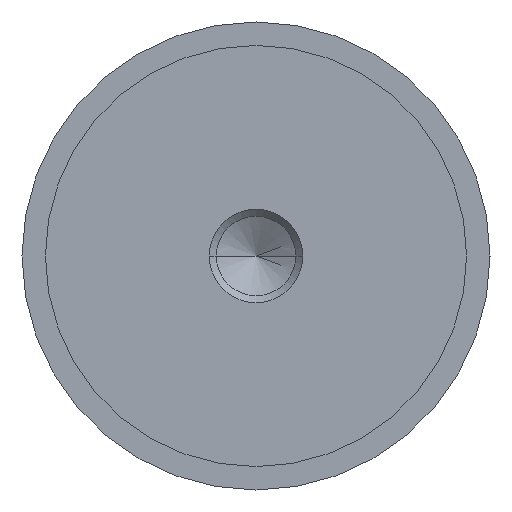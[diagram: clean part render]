
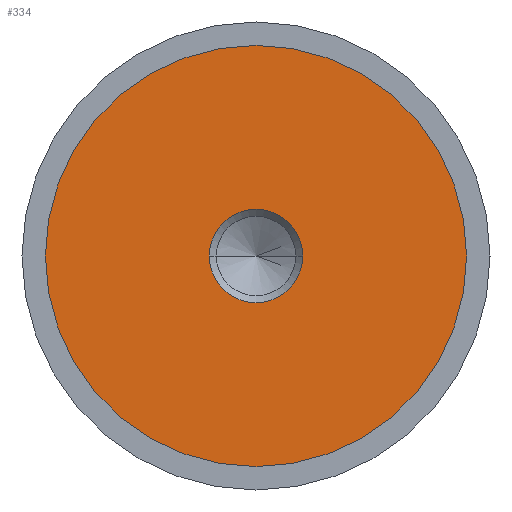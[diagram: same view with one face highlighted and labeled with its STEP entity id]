
A CAD part, left-side view. The second image highlights one B-rep face of the part: STEP entity #334.
In plain terms, the highlighted planar face has unit normal (-1, 0, 0).
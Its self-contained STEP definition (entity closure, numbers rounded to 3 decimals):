
#5 = DIRECTION ( 'NONE',  ( 0., 0., -1. ) ) ;
#18 = ORIENTED_EDGE ( 'NONE', *, *, #380, .T. ) ;
#36 = AXIS2_PLACEMENT_3D ( 'NONE', #297, #466, #701 ) ;
#57 = DIRECTION ( 'NONE',  ( 1., 0., 0. ) ) ;
#63 = CIRCLE ( 'NONE', #36, 18. ) ;
#112 = DIRECTION ( 'NONE',  ( 0., 0., -1. ) ) ;
#154 = CARTESIAN_POINT ( 'NONE',  ( -14.99, -3.99, 0. ) ) ;
#239 = EDGE_CURVE ( 'NONE', #730, #631, #63, .T. ) ;
#251 = ORIENTED_EDGE ( 'NONE', *, *, #239, .T. ) ;
#256 = ORIENTED_EDGE ( 'NONE', *, *, #582, .T. ) ;
#275 = CARTESIAN_POINT ( 'NONE',  ( -14.99, 3.99, 0. ) ) ;
#297 = CARTESIAN_POINT ( 'NONE',  ( -14.99, 0., 0. ) ) ;
#334 = ADVANCED_FACE ( 'NONE', ( #528, #483 ), #644, .F. ) ;
#370 = CIRCLE ( 'NONE', #440, 3.99 ) ;
#378 = DIRECTION ( 'NONE',  ( -1., 0., 0. ) ) ;
#380 = EDGE_CURVE ( 'NONE', #395, #522, #370, .T. ) ;
#387 = EDGE_LOOP ( 'NONE', ( #256, #18 ) ) ;
#395 = VERTEX_POINT ( 'NONE', #275 ) ;
#407 = DIRECTION ( 'NONE',  ( 1., 0., 0. ) ) ;
#440 = AXIS2_PLACEMENT_3D ( 'NONE', #696, #641, #504 ) ;
#445 = EDGE_CURVE ( 'NONE', #631, #730, #728, .T. ) ;
#466 = DIRECTION ( 'NONE',  ( -1., 0., 0. ) ) ;
#472 = CARTESIAN_POINT ( 'NONE',  ( -14.99, 0., 0. ) ) ;
#483 = FACE_OUTER_BOUND ( 'NONE', #769, .T. ) ;
#504 = DIRECTION ( 'NONE',  ( 0., 0., -1. ) ) ;
#522 = VERTEX_POINT ( 'NONE', #154 ) ;
#528 = FACE_BOUND ( 'NONE', #387, .T. ) ;
#565 = CARTESIAN_POINT ( 'NONE',  ( -14.99, 0., 18. ) ) ;
#582 = EDGE_CURVE ( 'NONE', #522, #395, #678, .T. ) ;
#611 = DIRECTION ( 'NONE',  ( 0., 0., 1. ) ) ;
#630 = CARTESIAN_POINT ( 'NONE',  ( -14.99, 0., 0. ) ) ;
#631 = VERTEX_POINT ( 'NONE', #704 ) ;
#641 = DIRECTION ( 'NONE',  ( 1., 0., 0. ) ) ;
#644 = PLANE ( 'NONE',  #743 ) ;
#649 = ORIENTED_EDGE ( 'NONE', *, *, #445, .T. ) ;
#672 = AXIS2_PLACEMENT_3D ( 'NONE', #630, #378, #611 ) ;
#678 = CIRCLE ( 'NONE', #762, 3.99 ) ;
#696 = CARTESIAN_POINT ( 'NONE',  ( -14.99, 0., 0. ) ) ;
#701 = DIRECTION ( 'NONE',  ( 0., 0., 1. ) ) ;
#704 = CARTESIAN_POINT ( 'NONE',  ( -14.99, 0., -18. ) ) ;
#728 = CIRCLE ( 'NONE', #672, 18. ) ;
#730 = VERTEX_POINT ( 'NONE', #565 ) ;
#743 = AXIS2_PLACEMENT_3D ( 'NONE', #771, #57, #5 ) ;
#762 = AXIS2_PLACEMENT_3D ( 'NONE', #472, #407, #112 ) ;
#769 = EDGE_LOOP ( 'NONE', ( #251, #649 ) ) ;
#771 = CARTESIAN_POINT ( 'NONE',  ( -14.99, 18., 0. ) ) ;
